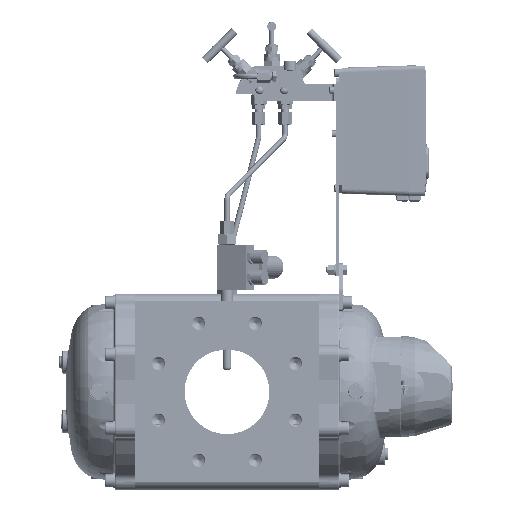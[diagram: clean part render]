
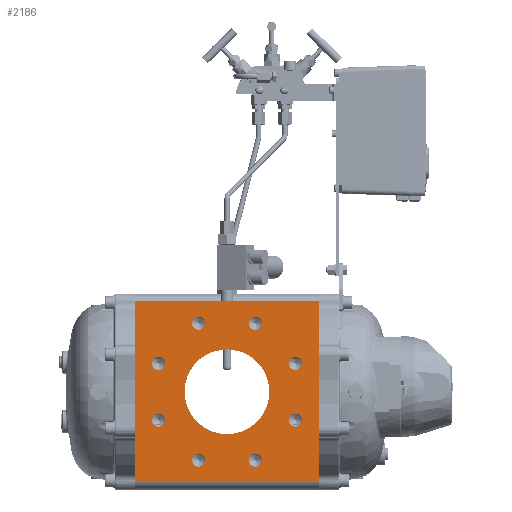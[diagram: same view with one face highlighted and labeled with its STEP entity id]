
A CAD part, front view. The second image highlights one B-rep face of the part: STEP entity #2186.
In plain terms, the highlighted planar face has unit normal (0, -1, 0).
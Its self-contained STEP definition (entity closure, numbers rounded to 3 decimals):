
#2186=ADVANCED_FACE('',(#93868,#93870,#93872,#93874,#93876,#93878,#93880,#93882,
#93884,#93886),#93888,.T.);
#93868=FACE_BOUND('',#93869,.T.);
#93869=EDGE_LOOP('',(#179247,#179248,#179249,#179250));
#93870=FACE_BOUND('',#93871,.T.);
#93871=EDGE_LOOP('',(#179251));
#93872=FACE_BOUND('',#93873,.T.);
#93873=EDGE_LOOP('',(#179252));
#93874=FACE_BOUND('',#93875,.T.);
#93875=EDGE_LOOP('',(#179253));
#93876=FACE_BOUND('',#93877,.T.);
#93877=EDGE_LOOP('',(#179254));
#93878=FACE_BOUND('',#93879,.T.);
#93879=EDGE_LOOP('',(#179255));
#93880=FACE_BOUND('',#93881,.T.);
#93881=EDGE_LOOP('',(#179256));
#93882=FACE_BOUND('',#93883,.T.);
#93883=EDGE_LOOP('',(#179257));
#93884=FACE_BOUND('',#93885,.T.);
#93885=EDGE_LOOP('',(#179258));
#93886=FACE_BOUND('',#93887,.T.);
#93887=EDGE_LOOP('',(#179259));
#93888=PLANE('',#93889);
#93889=AXIS2_PLACEMENT_3D('',#93890,#93891,#93892);
#93890=CARTESIAN_POINT('',(-223.,-120.5,110.));
#93891=DIRECTION('',(0.,-1.,0.));
#93892=DIRECTION('',(0.,0.,-1.));
#179247=ORIENTED_EDGE('',*,*,#247782,.T.);
#179248=ORIENTED_EDGE('',*,*,#247783,.T.);
#179249=ORIENTED_EDGE('',*,*,#247529,.T.);
#179250=ORIENTED_EDGE('',*,*,#247781,.F.);
#179251=ORIENTED_EDGE('',*,*,#247784,.T.);
#179252=ORIENTED_EDGE('',*,*,#247785,.T.);
#179253=ORIENTED_EDGE('',*,*,#247786,.T.);
#179254=ORIENTED_EDGE('',*,*,#247787,.T.);
#179255=ORIENTED_EDGE('',*,*,#247788,.T.);
#179256=ORIENTED_EDGE('',*,*,#247789,.T.);
#179257=ORIENTED_EDGE('',*,*,#247790,.T.);
#179258=ORIENTED_EDGE('',*,*,#247791,.T.);
#179259=ORIENTED_EDGE('',*,*,#247792,.T.);
#247529=EDGE_CURVE('',#277996,#277994,#277997,.T.);
#247781=EDGE_CURVE('',#278441,#277994,#278443,.T.);
#247782=EDGE_CURVE('',#278441,#278444,#278445,.T.);
#247783=EDGE_CURVE('',#278444,#277996,#278446,.T.);
#247784=EDGE_CURVE('',#278447,#278447,#278448,.T.);
#247785=EDGE_CURVE('',#278449,#278449,#278450,.T.);
#247786=EDGE_CURVE('',#278451,#278451,#278452,.T.);
#247787=EDGE_CURVE('',#278453,#278453,#278454,.T.);
#247788=EDGE_CURVE('',#278455,#278455,#278456,.T.);
#247789=EDGE_CURVE('',#278457,#278457,#278458,.T.);
#247790=EDGE_CURVE('',#278459,#278459,#278460,.T.);
#247791=EDGE_CURVE('',#278461,#278461,#278462,.T.);
#247792=EDGE_CURVE('',#278463,#278463,#278464,.T.);
#277994=VERTEX_POINT('',#327424);
#277996=VERTEX_POINT('',#327428);
#277997=LINE('',#327429,#327430);
#278441=VERTEX_POINT('',#330746);
#278443=LINE('',#330750,#330751);
#278444=VERTEX_POINT('',#330753);
#278445=LINE('',#330754,#330755);
#278446=LINE('',#330757,#330758);
#278447=VERTEX_POINT('',#330760);
#278448=CIRCLE('',#330761,7.917);
#278449=VERTEX_POINT('',#330765);
#278450=CIRCLE('',#330766,7.917);
#278451=VERTEX_POINT('',#330770);
#278452=CIRCLE('',#330771,7.917);
#278453=VERTEX_POINT('',#330775);
#278454=CIRCLE('',#330776,7.917);
#278455=VERTEX_POINT('',#330780);
#278456=CIRCLE('',#330781,7.917);
#278457=VERTEX_POINT('',#330785);
#278458=CIRCLE('',#330786,7.917);
#278459=VERTEX_POINT('',#330790);
#278460=CIRCLE('',#330791,7.917);
#278461=VERTEX_POINT('',#330795);
#278462=CIRCLE('',#330796,51.5);
#278463=VERTEX_POINT('',#330800);
#278464=CIRCLE('',#330801,7.917);
#327424=CARTESIAN_POINT('',(0.,-120.5,110.));
#327428=CARTESIAN_POINT('',(0.,-120.5,-110.));
#327429=CARTESIAN_POINT('',(0.,-120.5,-110.));
#327430=VECTOR('',#327431,1.);
#327431=DIRECTION('',(0.,0.,1.));
#330746=CARTESIAN_POINT('',(-223.,-120.5,110.));
#330750=CARTESIAN_POINT('',(-223.,-120.5,110.));
#330751=VECTOR('',#330752,1.);
#330752=DIRECTION('',(1.,0.,0.));
#330753=CARTESIAN_POINT('',(-223.,-120.5,-110.));
#330754=CARTESIAN_POINT('',(-223.,-120.5,110.));
#330755=VECTOR('',#330756,1.);
#330756=DIRECTION('',(0.,0.,-1.));
#330757=CARTESIAN_POINT('',(-223.,-120.5,-110.));
#330758=VECTOR('',#330759,1.);
#330759=DIRECTION('',(1.,0.,0.));
#330760=CARTESIAN_POINT('',(-138.024,-120.5,83.149));
#330761=AXIS2_PLACEMENT_3D('',#330762,#330763,#330764);
#330762=CARTESIAN_POINT('',(-145.942,-120.5,83.149));
#330763=DIRECTION('',(0.,1.,0.));
#330764=DIRECTION('',(1.,0.,0.));
#330765=CARTESIAN_POINT('',(-186.732,-120.5,34.442));
#330766=AXIS2_PLACEMENT_3D('',#330767,#330768,#330769);
#330767=CARTESIAN_POINT('',(-194.649,-120.5,34.442));
#330768=DIRECTION('',(0.,1.,0.));
#330769=DIRECTION('',(1.,0.,0.));
#330770=CARTESIAN_POINT('',(-20.433,-120.5,34.442));
#330771=AXIS2_PLACEMENT_3D('',#330772,#330773,#330774);
#330772=CARTESIAN_POINT('',(-28.351,-120.5,34.442));
#330773=DIRECTION('',(0.,1.,0.));
#330774=DIRECTION('',(1.,0.,0.));
#330775=CARTESIAN_POINT('',(-20.433,-120.5,-34.442));
#330776=AXIS2_PLACEMENT_3D('',#330777,#330778,#330779);
#330777=CARTESIAN_POINT('',(-28.351,-120.5,-34.442));
#330778=DIRECTION('',(0.,1.,0.));
#330779=DIRECTION('',(1.,0.,0.));
#330780=CARTESIAN_POINT('',(-69.141,-120.5,-83.149));
#330781=AXIS2_PLACEMENT_3D('',#330782,#330783,#330784);
#330782=CARTESIAN_POINT('',(-77.058,-120.5,-83.149));
#330783=DIRECTION('',(0.,1.,0.));
#330784=DIRECTION('',(1.,0.,0.));
#330785=CARTESIAN_POINT('',(-138.024,-120.5,-83.149));
#330786=AXIS2_PLACEMENT_3D('',#330787,#330788,#330789);
#330787=CARTESIAN_POINT('',(-145.942,-120.5,-83.149));
#330788=DIRECTION('',(0.,1.,0.));
#330789=DIRECTION('',(1.,0.,0.));
#330790=CARTESIAN_POINT('',(-186.732,-120.5,-34.442));
#330791=AXIS2_PLACEMENT_3D('',#330792,#330793,#330794);
#330792=CARTESIAN_POINT('',(-194.649,-120.5,-34.442));
#330793=DIRECTION('',(0.,1.,0.));
#330794=DIRECTION('',(1.,0.,0.));
#330795=CARTESIAN_POINT('',(-163.,-120.5,0.));
#330796=AXIS2_PLACEMENT_3D('',#330797,#330798,#330799);
#330797=CARTESIAN_POINT('',(-111.5,-120.5,0.));
#330798=DIRECTION('',(0.,1.,0.));
#330799=DIRECTION('',(-1.,0.,0.));
#330800=CARTESIAN_POINT('',(-69.141,-120.5,83.149));
#330801=AXIS2_PLACEMENT_3D('',#330802,#330803,#330804);
#330802=CARTESIAN_POINT('',(-77.058,-120.5,83.149));
#330803=DIRECTION('',(0.,1.,0.));
#330804=DIRECTION('',(1.,0.,0.));
